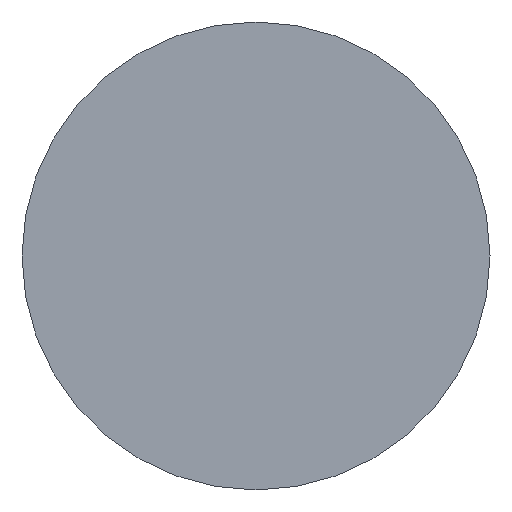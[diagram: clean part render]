
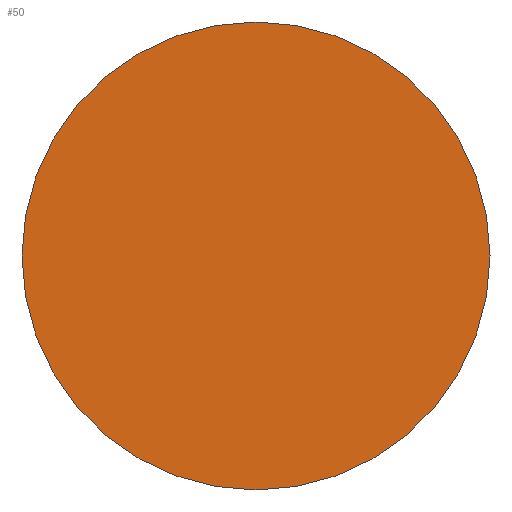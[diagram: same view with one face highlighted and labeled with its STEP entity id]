
A CAD part, front view. The second image highlights one B-rep face of the part: STEP entity #50.
In plain terms, the highlighted planar face has unit normal (0, -1, 0).
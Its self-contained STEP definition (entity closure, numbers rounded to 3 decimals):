
#22 = VERTEX_POINT('',#23);
#23 = CARTESIAN_POINT('',(14.2,-16.,32.3));
#39 = EDGE_CURVE('',#22,#22,#40,.T.);
#40 = CIRCLE('',#41,1.3);
#41 = AXIS2_PLACEMENT_3D('',#42,#43,#44);
#42 = CARTESIAN_POINT('',(14.2,-16.,31.));
#43 = DIRECTION('',(0.,1.,0.));
#44 = DIRECTION('',(0.,0.,1.));
#50 = ADVANCED_FACE('',(#51),#54,.F.);
#51 = FACE_BOUND('',#52,.F.);
#52 = EDGE_LOOP('',(#53));
#53 = ORIENTED_EDGE('',*,*,#39,.T.);
#54 = PLANE('',#55);
#55 = AXIS2_PLACEMENT_3D('',#56,#57,#58);
#56 = CARTESIAN_POINT('',(0.,-16.,0.));
#57 = DIRECTION('',(0.,1.,0.));
#58 = DIRECTION('',(0.,0.,1.));
